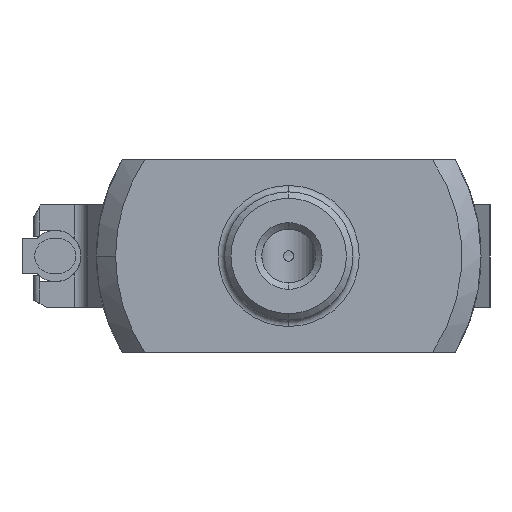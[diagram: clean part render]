
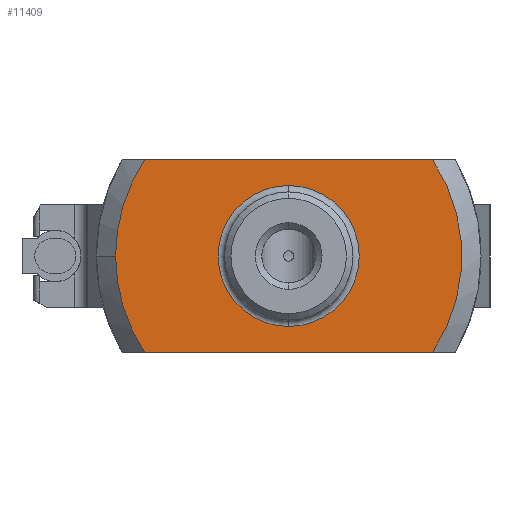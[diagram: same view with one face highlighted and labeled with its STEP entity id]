
A CAD part, front view. The second image highlights one B-rep face of the part: STEP entity #11409.
In plain terms, the highlighted planar face has unit normal (0, -1, 0).
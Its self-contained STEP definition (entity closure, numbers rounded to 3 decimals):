
#1122 = DIRECTION ( 'NONE',  ( -1., 0., 0. ) ) ;
#1851 = ORIENTED_EDGE ( 'NONE', *, *, #28197, .T. ) ;
#2840 = DIRECTION ( 'NONE',  ( 1., 0., 0. ) ) ;
#2913 = EDGE_CURVE ( 'NONE', #12799, #22918, #14264, .T. ) ;
#3135 = VECTOR ( 'NONE', #24381, 1000. ) ;
#3207 = EDGE_LOOP ( 'NONE', ( #32075, #34649 ) ) ;
#3696 = CARTESIAN_POINT ( 'NONE',  ( 0., -24., 0. ) ) ;
#4038 = CARTESIAN_POINT ( 'NONE',  ( 11.225, -24., -15. ) ) ;
#4417 = CARTESIAN_POINT ( 'NONE',  ( 0., -24., -15. ) ) ;
#4864 = ORIENTED_EDGE ( 'NONE', *, *, #34176, .F. ) ;
#5422 = VERTEX_POINT ( 'NONE', #4038 ) ;
#8346 = DIRECTION ( 'NONE',  ( 0., 1., 0. ) ) ;
#8516 = CARTESIAN_POINT ( 'NONE',  ( 0., -24., -7.5 ) ) ;
#8626 = DIRECTION ( 'NONE',  ( 0., -1., 0. ) ) ;
#8753 = DIRECTION ( 'NONE',  ( -1., 0., 0. ) ) ;
#9384 = AXIS2_PLACEMENT_3D ( 'NONE', #25482, #25858, #25973 ) ;
#10557 = EDGE_CURVE ( 'NONE', #5422, #22918, #23969, .T. ) ;
#11201 = EDGE_CURVE ( 'NONE', #31958, #31801, #22648, .T. ) ;
#11409 = ADVANCED_FACE ( 'NONE', ( #23086, #16362 ), #25097, .T. ) ;
#12118 = CARTESIAN_POINT ( 'NONE',  ( 11.225, -24., 0. ) ) ;
#12505 = LINE ( 'NONE', #4417, #3135 ) ;
#12799 = VERTEX_POINT ( 'NONE', #25056 ) ;
#13906 = AXIS2_PLACEMENT_3D ( 'NONE', #8516, #8626, #8753 ) ;
#14264 = LINE ( 'NONE', #3696, #28575 ) ;
#14605 = ORIENTED_EDGE ( 'NONE', *, *, #11201, .T. ) ;
#15008 = CARTESIAN_POINT ( 'NONE',  ( 0., -24., -7.5 ) ) ;
#15872 = ORIENTED_EDGE ( 'NONE', *, *, #10557, .T. ) ;
#16362 = FACE_OUTER_BOUND ( 'NONE', #31167, .T. ) ;
#16894 = AXIS2_PLACEMENT_3D ( 'NONE', #25432, #8346, #28287 ) ;
#17854 = DIRECTION ( 'NONE',  ( 0., 0., -1. ) ) ;
#18223 = DIRECTION ( 'NONE',  ( 0., -1., 0. ) ) ;
#19953 = CARTESIAN_POINT ( 'NONE',  ( 0., -24., -13. ) ) ;
#22121 = CARTESIAN_POINT ( 'NONE',  ( 0., -24., -2. ) ) ;
#22237 = CARTESIAN_POINT ( 'NONE',  ( -11.225, -24., -15. ) ) ;
#22648 = CIRCLE ( 'NONE', #13906, 13.5 ) ;
#22918 = VERTEX_POINT ( 'NONE', #12118 ) ;
#23001 = AXIS2_PLACEMENT_3D ( 'NONE', #24187, #25736, #27477 ) ;
#23086 = FACE_BOUND ( 'NONE', #3207, .T. ) ;
#23402 = VERTEX_POINT ( 'NONE', #19953 ) ;
#23969 = CIRCLE ( 'NONE', #23001, 13.5 ) ;
#24034 = AXIS2_PLACEMENT_3D ( 'NONE', #35319, #18223, #1122 ) ;
#24187 = CARTESIAN_POINT ( 'NONE',  ( 0., -24., -7.5 ) ) ;
#24381 = DIRECTION ( 'NONE',  ( -1., 0., 0. ) ) ;
#24923 = CIRCLE ( 'NONE', #24034, 13.5 ) ;
#25056 = CARTESIAN_POINT ( 'NONE',  ( -11.225, -24., 0. ) ) ;
#25097 = PLANE ( 'NONE',  #9384 ) ;
#25432 = CARTESIAN_POINT ( 'NONE',  ( 0., -24., -7.5 ) ) ;
#25482 = CARTESIAN_POINT ( 'NONE',  ( 13.662, -24., 0. ) ) ;
#25736 = DIRECTION ( 'NONE',  ( 0., -1., 0. ) ) ;
#25858 = DIRECTION ( 'NONE',  ( 0., -1., 0. ) ) ;
#25973 = DIRECTION ( 'NONE',  ( -1., 0., 0. ) ) ;
#27477 = DIRECTION ( 'NONE',  ( -1., 0., 0. ) ) ;
#27610 = EDGE_CURVE ( 'NONE', #29869, #23402, #35225, .T. ) ;
#28197 = EDGE_CURVE ( 'NONE', #12799, #31958, #24923, .T. ) ;
#28287 = DIRECTION ( 'NONE',  ( 0., 0., -1. ) ) ;
#28575 = VECTOR ( 'NONE', #2840, 1000. ) ;
#29686 = CIRCLE ( 'NONE', #16894, 5.5 ) ;
#29869 = VERTEX_POINT ( 'NONE', #22121 ) ;
#31167 = EDGE_LOOP ( 'NONE', ( #4864, #15872, #36374, #1851, #14605 ) ) ;
#31278 = EDGE_CURVE ( 'NONE', #23402, #29869, #29686, .T. ) ;
#31801 = VERTEX_POINT ( 'NONE', #22237 ) ;
#31958 = VERTEX_POINT ( 'NONE', #35273 ) ;
#32075 = ORIENTED_EDGE ( 'NONE', *, *, #31278, .T. ) ;
#34176 = EDGE_CURVE ( 'NONE', #5422, #31801, #12505, .T. ) ;
#34649 = ORIENTED_EDGE ( 'NONE', *, *, #27610, .T. ) ;
#34974 = DIRECTION ( 'NONE',  ( 0., 1., 0. ) ) ;
#35225 = CIRCLE ( 'NONE', #36905, 5.5 ) ;
#35273 = CARTESIAN_POINT ( 'NONE',  ( -13.5, -24., -7.5 ) ) ;
#35319 = CARTESIAN_POINT ( 'NONE',  ( 0., -24., -7.5 ) ) ;
#36374 = ORIENTED_EDGE ( 'NONE', *, *, #2913, .F. ) ;
#36905 = AXIS2_PLACEMENT_3D ( 'NONE', #15008, #34974, #17854 ) ;
